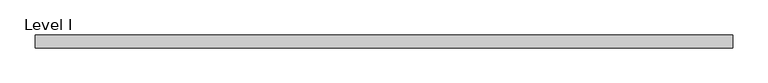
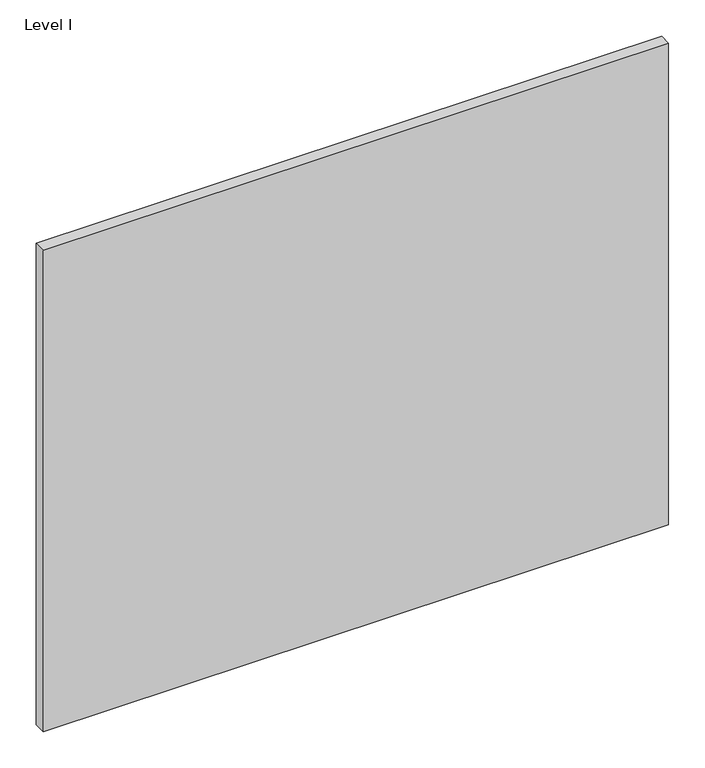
"""IFC4 building model written with IfcOpenShell, lengths in millimetres: proxy geometry, Panel-Fascia-Teknion-Altos-Standard : Level I."""

from ifc_helpers import new_model, si_unit, frame, origin, place, context, project, spatial, polyline, outline, extrude, source, transform, mapped, element, save


def level_i_3af106d6(model_context):
    return source(origin(), model_context, "Body", "SweptSolid", [
        extrude(outline(polyline([(498.4198344, -9.525), (-498.4198344, -9.525), (-498.4198344, 9.525), (498.4198344, 9.525), (498.4198344, -9.525)])), frame((0.0, 0.0, 3.175), z_axis=(0.0, 0.0, 1.0), x_axis=(1.0, 0.0, 0.0)), (0.0, 0.0, 1.0), 810.768),
    ])


if __name__ == "__main__":
    model = new_model("IFC4")
    model_context = context("Model", 3, world=origin())
    ifc_project = project(units=[si_unit("LENGTHUNIT", "METRE", prefix="MILLI")], contexts=[model_context])
    site = spatial("IfcSite", under=ifc_project)
    building = spatial("IfcBuilding", under=site)
    placement = place(None, origin())
    level_i_shape = level_i_3af106d6(model_context)
    element("IfcBuildingElementProxy", 1, Name="Panel-Fascia-Teknion-Altos-Standard : Level I", ObjectType="Panel-Fascia-Teknion-Altos-Standard : Level I", at=placement, inside=building, context=model_context, shape_type="MappedRepresentation", body=[
        mapped(level_i_shape, transform((0.0, 0.0, 0.0), x_axis=(1.0, 0.0, 0.0), y_axis=(0.0, 1.0, 0.0), z_axis=(0.0, 0.0, 1.0))),
    ])
    save(model, "model.ifc")
